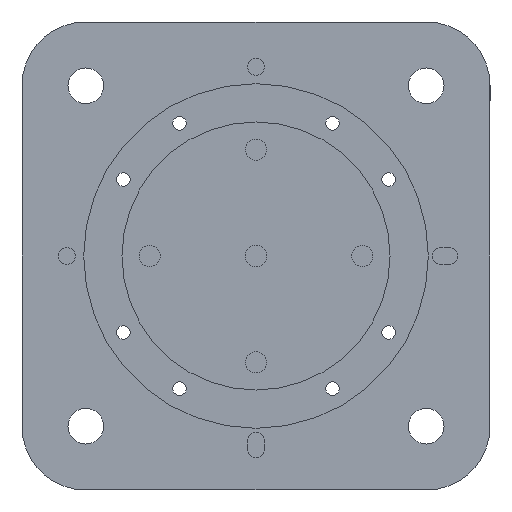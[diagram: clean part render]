
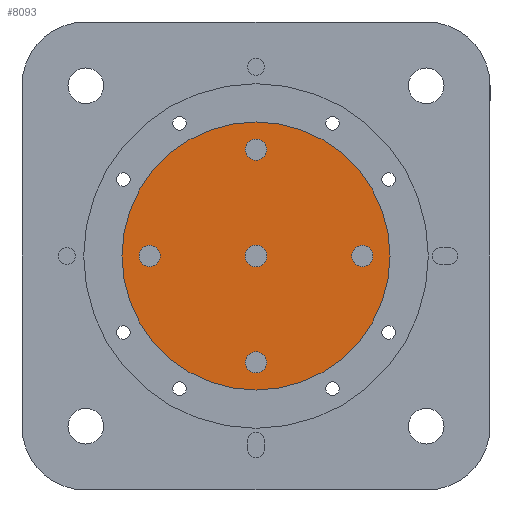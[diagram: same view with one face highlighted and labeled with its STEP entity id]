
A CAD part, front view. The second image highlights one B-rep face of the part: STEP entity #8093.
In plain terms, the highlighted planar face has unit normal (0, -1, 0).
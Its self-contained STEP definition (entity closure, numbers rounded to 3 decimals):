
#11 = EDGE_CURVE ( 'NONE', #5049, #1387, #5601, .T. ) ;
#36 = DIRECTION ( 'NONE',  ( 0., 0., -1. ) ) ;
#65 = CIRCLE ( 'NONE', #678, 2.5 ) ;
#82 = CARTESIAN_POINT ( 'NONE',  ( 0., 0., 0. ) ) ;
#182 = CARTESIAN_POINT ( 'NONE',  ( 0., 0., 2.553 ) ) ;
#344 = EDGE_CURVE ( 'NONE', #1387, #5049, #65, .T. ) ;
#446 = AXIS2_PLACEMENT_3D ( 'NONE', #2166, #3558, #1478 ) ;
#492 = DIRECTION ( 'NONE',  ( 0., 0., -1. ) ) ;
#537 = DIRECTION ( 'NONE',  ( 0., -1., 0. ) ) ;
#678 = AXIS2_PLACEMENT_3D ( 'NONE', #4592, #1890, #3888 ) ;
#701 = EDGE_LOOP ( 'NONE', ( #3539, #8993 ) ) ;
#724 = FACE_BOUND ( 'NONE', #4018, .T. ) ;
#772 = FACE_OUTER_BOUND ( 'NONE', #2526, .T. ) ;
#959 = CARTESIAN_POINT ( 'NONE',  ( 0., 0., 22.5 ) ) ;
#971 = DIRECTION ( 'NONE',  ( 0., 0., -1. ) ) ;
#1068 = DIRECTION ( 'NONE',  ( 0., -1., 0. ) ) ;
#1091 = DIRECTION ( 'NONE',  ( 0., 0., -1. ) ) ;
#1152 = VERTEX_POINT ( 'NONE', #182 ) ;
#1298 = EDGE_CURVE ( 'NONE', #8681, #3185, #4135, .T. ) ;
#1310 = CIRCLE ( 'NONE', #7887, 2.5 ) ;
#1387 = VERTEX_POINT ( 'NONE', #4361 ) ;
#1392 = EDGE_CURVE ( 'NONE', #8570, #7251, #1310, .T. ) ;
#1478 = DIRECTION ( 'NONE',  ( 0., 0., 1. ) ) ;
#1606 = AXIS2_PLACEMENT_3D ( 'NONE', #5713, #5566, #4114 ) ;
#1747 = ORIENTED_EDGE ( 'NONE', *, *, #11, .F. ) ;
#1766 = CARTESIAN_POINT ( 'NONE',  ( 0., 0., 0. ) ) ;
#1837 = DIRECTION ( 'NONE',  ( 0., -1., 0. ) ) ;
#1876 = VERTEX_POINT ( 'NONE', #6934 ) ;
#1890 = DIRECTION ( 'NONE',  ( 0., -1., 0. ) ) ;
#1907 = CARTESIAN_POINT ( 'NONE',  ( 25., 0., 0. ) ) ;
#1977 = AXIS2_PLACEMENT_3D ( 'NONE', #1907, #537, #4136 ) ;
#2166 = CARTESIAN_POINT ( 'NONE',  ( -40., 0., -40. ) ) ;
#2234 = DIRECTION ( 'NONE',  ( 0., -1., 0. ) ) ;
#2248 = DIRECTION ( 'NONE',  ( 0., -1., 0. ) ) ;
#2390 = CARTESIAN_POINT ( 'NONE',  ( 0., 0., -22.5 ) ) ;
#2418 = DIRECTION ( 'NONE',  ( 0., -1., 0. ) ) ;
#2492 = AXIS2_PLACEMENT_3D ( 'NONE', #6068, #2418, #3291 ) ;
#2505 = AXIS2_PLACEMENT_3D ( 'NONE', #82, #8687, #36 ) ;
#2510 = CARTESIAN_POINT ( 'NONE',  ( 0., 0., -31.5 ) ) ;
#2526 = EDGE_LOOP ( 'NONE', ( #4169, #4215 ) ) ;
#2674 = DIRECTION ( 'NONE',  ( 0., -1., 0. ) ) ;
#2748 = CARTESIAN_POINT ( 'NONE',  ( -25., 0., -2.5 ) ) ;
#2752 = CARTESIAN_POINT ( 'NONE',  ( 0., 0., -2.553 ) ) ;
#2779 = PLANE ( 'NONE',  #446 ) ;
#2781 = CIRCLE ( 'NONE', #8173, 2.553 ) ;
#2788 = CIRCLE ( 'NONE', #2492, 2.5 ) ;
#2849 = DIRECTION ( 'NONE',  ( 0., 0., -1. ) ) ;
#2850 = ORIENTED_EDGE ( 'NONE', *, *, #4622, .F. ) ;
#2863 = ORIENTED_EDGE ( 'NONE', *, *, #5211, .F. ) ;
#3026 = CARTESIAN_POINT ( 'NONE',  ( 25., 0., 2.5 ) ) ;
#3040 = VERTEX_POINT ( 'NONE', #2752 ) ;
#3111 = DIRECTION ( 'NONE',  ( 0., -1., 0. ) ) ;
#3185 = VERTEX_POINT ( 'NONE', #2510 ) ;
#3291 = DIRECTION ( 'NONE',  ( 0., 0., -1. ) ) ;
#3308 = DIRECTION ( 'NONE',  ( 0., 0., -1. ) ) ;
#3331 = EDGE_LOOP ( 'NONE', ( #2850, #2863 ) ) ;
#3439 = CIRCLE ( 'NONE', #1977, 2.5 ) ;
#3506 = FACE_BOUND ( 'NONE', #7105, .T. ) ;
#3539 = ORIENTED_EDGE ( 'NONE', *, *, #3908, .F. ) ;
#3558 = DIRECTION ( 'NONE',  ( 0., 1., 0. ) ) ;
#3642 = AXIS2_PLACEMENT_3D ( 'NONE', #6692, #6788, #3911 ) ;
#3644 = ORIENTED_EDGE ( 'NONE', *, *, #1392, .F. ) ;
#3688 = CIRCLE ( 'NONE', #3832, 2.553 ) ;
#3827 = VERTEX_POINT ( 'NONE', #2390 ) ;
#3832 = AXIS2_PLACEMENT_3D ( 'NONE', #8529, #2234, #2849 ) ;
#3888 = DIRECTION ( 'NONE',  ( 0., 0., -1. ) ) ;
#3908 = EDGE_CURVE ( 'NONE', #7425, #8298, #7046, .T. ) ;
#3911 = DIRECTION ( 'NONE',  ( 0., 0., -1. ) ) ;
#4018 = EDGE_LOOP ( 'NONE', ( #7527, #7250 ) ) ;
#4114 = DIRECTION ( 'NONE',  ( 0., 0., -1. ) ) ;
#4135 = CIRCLE ( 'NONE', #2505, 31.5 ) ;
#4136 = DIRECTION ( 'NONE',  ( 0., 0., -1. ) ) ;
#4169 = ORIENTED_EDGE ( 'NONE', *, *, #5384, .T. ) ;
#4215 = ORIENTED_EDGE ( 'NONE', *, *, #1298, .T. ) ;
#4299 = CIRCLE ( 'NONE', #7304, 31.5 ) ;
#4361 = CARTESIAN_POINT ( 'NONE',  ( 0., 0., 27.5 ) ) ;
#4439 = CIRCLE ( 'NONE', #1606, 2.5 ) ;
#4581 = EDGE_CURVE ( 'NONE', #8298, #7425, #2788, .T. ) ;
#4592 = CARTESIAN_POINT ( 'NONE',  ( 0., 0., 25. ) ) ;
#4622 = EDGE_CURVE ( 'NONE', #3040, #1152, #2781, .T. ) ;
#4770 = EDGE_CURVE ( 'NONE', #1876, #3827, #4439, .T. ) ;
#5049 = VERTEX_POINT ( 'NONE', #959 ) ;
#5144 = EDGE_LOOP ( 'NONE', ( #3644, #6473 ) ) ;
#5211 = EDGE_CURVE ( 'NONE', #1152, #3040, #3688, .T. ) ;
#5384 = EDGE_CURVE ( 'NONE', #3185, #8681, #4299, .T. ) ;
#5566 = DIRECTION ( 'NONE',  ( 0., -1., 0. ) ) ;
#5601 = CIRCLE ( 'NONE', #3642, 2.5 ) ;
#5633 = FACE_BOUND ( 'NONE', #5144, .T. ) ;
#5713 = CARTESIAN_POINT ( 'NONE',  ( 0., 0., -25. ) ) ;
#5928 = EDGE_CURVE ( 'NONE', #3827, #1876, #8518, .T. ) ;
#6068 = CARTESIAN_POINT ( 'NONE',  ( -25., 0., 0. ) ) ;
#6184 = CARTESIAN_POINT ( 'NONE',  ( 0., 0., 31.5 ) ) ;
#6441 = FACE_BOUND ( 'NONE', #701, .T. ) ;
#6473 = ORIENTED_EDGE ( 'NONE', *, *, #9106, .F. ) ;
#6692 = CARTESIAN_POINT ( 'NONE',  ( 0., 0., 25. ) ) ;
#6707 = CARTESIAN_POINT ( 'NONE',  ( 25., 0., 0. ) ) ;
#6715 = AXIS2_PLACEMENT_3D ( 'NONE', #9213, #2248, #8492 ) ;
#6788 = DIRECTION ( 'NONE',  ( 0., -1., 0. ) ) ;
#6934 = CARTESIAN_POINT ( 'NONE',  ( 0., 0., -27.5 ) ) ;
#7046 = CIRCLE ( 'NONE', #7669, 2.5 ) ;
#7105 = EDGE_LOOP ( 'NONE', ( #1747, #8285 ) ) ;
#7250 = ORIENTED_EDGE ( 'NONE', *, *, #5928, .F. ) ;
#7251 = VERTEX_POINT ( 'NONE', #3026 ) ;
#7304 = AXIS2_PLACEMENT_3D ( 'NONE', #7395, #3111, #971 ) ;
#7395 = CARTESIAN_POINT ( 'NONE',  ( 0., 0., 0. ) ) ;
#7425 = VERTEX_POINT ( 'NONE', #2748 ) ;
#7527 = ORIENTED_EDGE ( 'NONE', *, *, #4770, .F. ) ;
#7605 = CARTESIAN_POINT ( 'NONE',  ( -25., 0., 0. ) ) ;
#7669 = AXIS2_PLACEMENT_3D ( 'NONE', #7605, #2674, #3308 ) ;
#7887 = AXIS2_PLACEMENT_3D ( 'NONE', #6707, #1837, #1091 ) ;
#8093 = ADVANCED_FACE ( 'NONE', ( #3506, #6441, #724, #5633, #8651, #772 ), #2779, .F. ) ;
#8173 = AXIS2_PLACEMENT_3D ( 'NONE', #1766, #1068, #492 ) ;
#8285 = ORIENTED_EDGE ( 'NONE', *, *, #344, .F. ) ;
#8298 = VERTEX_POINT ( 'NONE', #8990 ) ;
#8492 = DIRECTION ( 'NONE',  ( 0., 0., -1. ) ) ;
#8518 = CIRCLE ( 'NONE', #6715, 2.5 ) ;
#8529 = CARTESIAN_POINT ( 'NONE',  ( 0., 0., 0. ) ) ;
#8570 = VERTEX_POINT ( 'NONE', #8737 ) ;
#8651 = FACE_BOUND ( 'NONE', #3331, .T. ) ;
#8681 = VERTEX_POINT ( 'NONE', #6184 ) ;
#8687 = DIRECTION ( 'NONE',  ( 0., -1., 0. ) ) ;
#8737 = CARTESIAN_POINT ( 'NONE',  ( 25., 0., -2.5 ) ) ;
#8990 = CARTESIAN_POINT ( 'NONE',  ( -25., 0., 2.5 ) ) ;
#8993 = ORIENTED_EDGE ( 'NONE', *, *, #4581, .F. ) ;
#9106 = EDGE_CURVE ( 'NONE', #7251, #8570, #3439, .T. ) ;
#9213 = CARTESIAN_POINT ( 'NONE',  ( 0., 0., -25. ) ) ;
